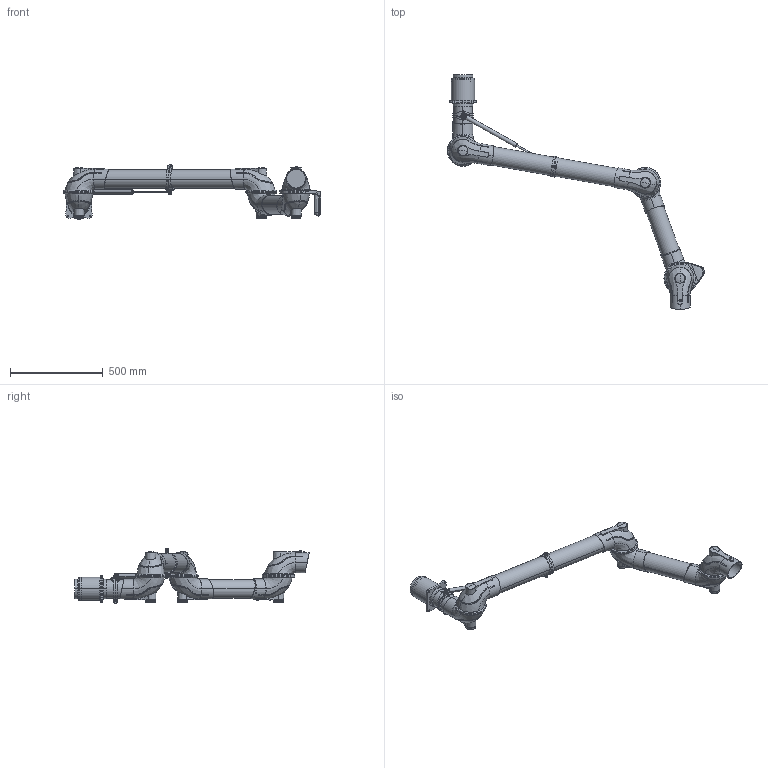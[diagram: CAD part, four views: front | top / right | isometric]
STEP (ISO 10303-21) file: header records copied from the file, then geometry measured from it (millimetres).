
FILE_DESCRIPTION((''),'2;1');
FILE_NAME('100332','2015-01-09T',('Tomas Bellgran'),(''),'PRO/ENGINEER BY PARAMETRIC TECHNOLOGY CORPORATION, 2013410','PRO/ENGINEER BY PARAMETRIC TECHNOLOGY CORPORATION, 2013410','');
FILE_SCHEMA(('AUTOMOTIVE_DESIGN { 1 0 10303 214 1 1 1 1 }'));
Length unit declared in the file: millimetre
Products named in the file (34): 100945; 100252; 100940; 100935; 100249; 100001; 100188; 100190; 9900420; 100328; 100003; 100315; 100279; 100275; 100002_AF13; 100291; 100001_AF8; 105-5481; 101156; 105-5810; 102135; 102086; 100337; GAS_SPRING_BANBACH_CYLB; GAS_SPRING_BANBACH-TUBE_AF10; 100344; 9903861; LOCK_NUT_M8_DIN985; LOCK_NUT_M8_DIN985_PL; 100107; GAS_SPRING_BANBACH_ROD; GAS_SPRING_BANBACH_RODHEAD; 100344-REF; 100332
Assembly tree (45 placements, depth 4):
  100332
    100328
      100945
      100252
      100940
      100935  x2
      100249
      100001
      100190
        100188
      9900420
    100315
      100001  x2
      100003
      100190
        100188
      9900420
    100275
      100279
      100001
    102086
      100002_AF13
      100291
      100001_AF8
      101156
        105-5481
      102135  x2
        105-5810
    100337  x2
    100344
      GAS_SPRING_BANBACH_CYLB
      GAS_SPRING_BANBACH-TUBE_AF10
    9903861  x2
    100107  x2
      LOCK_NUT_M8_DIN985
      LOCK_NUT_M8_DIN985_PL
    100344-REF
      GAS_SPRING_BANBACH_ROD
      GAS_SPRING_BANBACH_RODHEAD
    101156  x2
      105-5481
Bounding box: 1390.11 x 1266.96 x 294.37 mm (x, y, z)
Volume: 24978563.3 mm3; surface area: 1770297.9 mm2
Topology: 36 solids, 38 shells, 1229 faces, 2991 edges, 1856 vertices
Faces by surface type: bspline 374, plane 348, cylinder 246, cone 166, torus 48, sphere 33, extrusion 9, revolution 5
Entity records: 57834 total; most frequent: CARTESIAN_POINT 24129, ORIENTED_EDGE 3420, DIRECTION 2895, PRESENTATION_STYLE_ASSIGNMENT 2231, STYLED_ITEM 2231, EDGE_CURVE 1710, CURVE_STYLE 1697, PROPERTY_DEFINITION 1554
